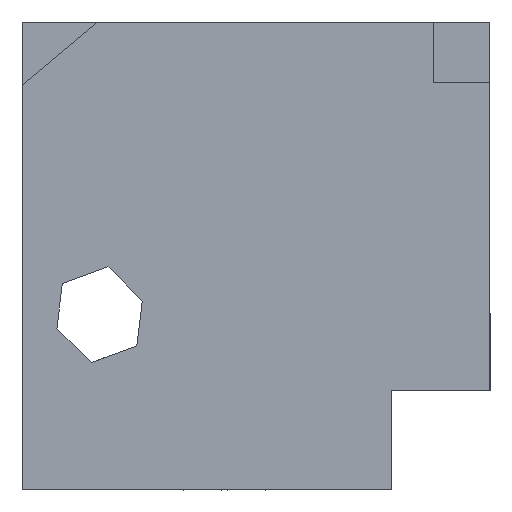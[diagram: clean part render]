
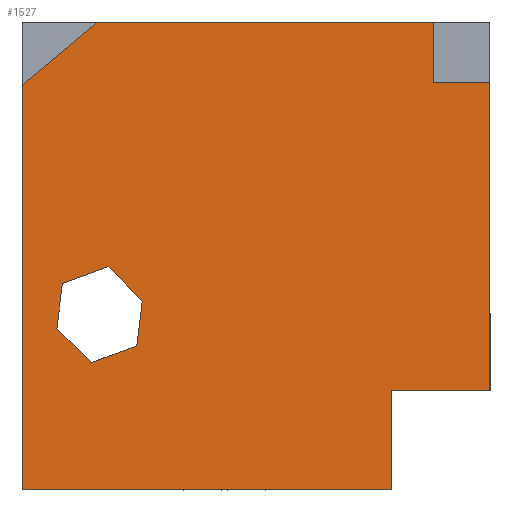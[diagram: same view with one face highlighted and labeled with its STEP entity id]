
A CAD part, left-side view. The second image highlights one B-rep face of the part: STEP entity #1527.
In plain terms, the highlighted planar face has unit normal (-1, 0, 0).
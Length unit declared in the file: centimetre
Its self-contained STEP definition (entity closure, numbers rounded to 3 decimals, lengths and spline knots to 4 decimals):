
#13 = CARTESIAN_POINT ( 'NONE',  ( 0., 1000., 1000. ) ) ;
#34 = VERTEX_POINT ( 'NONE', #563 ) ;
#38 = ORIENTED_EDGE ( 'NONE', *, *, #230, .T. ) ;
#70 = AXIS2_PLACEMENT_3D ( 'NONE', #1212, #466, #1525 ) ;
#71 = VECTOR ( 'NONE', #973, 100. ) ;
#75 = ORIENTED_EDGE ( 'NONE', *, *, #504, .F. ) ;
#85 = LINE ( 'NONE', #1158, #1379 ) ;
#95 = LINE ( 'NONE', #339, #900 ) ;
#108 = EDGE_CURVE ( 'NONE', #1005, #634, #1410, .T. ) ;
#114 = EDGE_CURVE ( 'NONE', #689, #811, #95, .T. ) ;
#116 = ORIENTED_EDGE ( 'NONE', *, *, #1057, .T. ) ;
#117 = PLANE ( 'NONE',  #70 ) ;
#144 = EDGE_CURVE ( 'NONE', #1262, #320, #222, .T. ) ;
#147 = VECTOR ( 'NONE', #1225, 100. ) ;
#156 = LINE ( 'NONE', #1339, #147 ) ;
#160 = LINE ( 'NONE', #13, #1164 ) ;
#166 = ORIENTED_EDGE ( 'NONE', *, *, #114, .T. ) ;
#193 = LINE ( 'NONE', #1506, #1504 ) ;
#209 = DIRECTION ( 'NONE',  ( 0., -0.707, -0.707 ) ) ;
#222 = LINE ( 'NONE', #708, #545 ) ;
#228 = EDGE_CURVE ( 'NONE', #34, #637, #85, .T. ) ;
#230 = EDGE_CURVE ( 'NONE', #1536, #1097, #193, .T. ) ;
#232 = CARTESIAN_POINT ( 'NONE',  ( 0., 913.8437, 441.1895 ) ) ;
#241 = DIRECTION ( 'NONE',  ( 0., -1., 0. ) ) ;
#243 = EDGE_LOOP ( 'NONE', ( #1104, #1247, #769, #516, #38, #385, #253, #75, #867 ) ) ;
#247 = VECTOR ( 'NONE', #241, 100. ) ;
#248 = VECTOR ( 'NONE', #899, 100. ) ;
#253 = ORIENTED_EDGE ( 'NONE', *, *, #108, .F. ) ;
#263 = VERTEX_POINT ( 'NONE', #446 ) ;
#303 = CARTESIAN_POINT ( 'NONE',  ( 0., 211.0073, 213.0242 ) ) ;
#311 = DIRECTION ( 'NONE',  ( 0., 0.94, -0.342 ) ) ;
#320 = VERTEX_POINT ( 'NONE', #489 ) ;
#329 = LINE ( 'NONE', #1296, #1480 ) ;
#332 = CARTESIAN_POINT ( 'NONE',  ( 0., 0., 1000. ) ) ;
#339 = CARTESIAN_POINT ( 'NONE',  ( 0., 925.3971, 345.314 ) ) ;
#346 = VERTEX_POINT ( 'NONE', #586 ) ;
#360 = ORIENTED_EDGE ( 'NONE', *, *, #1129, .T. ) ;
#381 = CARTESIAN_POINT ( 'NONE',  ( 0., 0., 871.1625 ) ) ;
#385 = ORIENTED_EDGE ( 'NONE', *, *, #1228, .T. ) ;
#416 = LINE ( 'NONE', #1314, #780 ) ;
#442 = EDGE_CURVE ( 'NONE', #263, #1262, #160, .T. ) ;
#446 = CARTESIAN_POINT ( 'NONE',  ( 0., 838.7382, 1000. ) ) ;
#466 = DIRECTION ( 'NONE',  ( 1., 0., 0. ) ) ;
#483 = EDGE_CURVE ( 'NONE', #891, #263, #156, .T. ) ;
#487 = DIRECTION ( 'NONE',  ( 0., -0.94, 0.342 ) ) ;
#489 = CARTESIAN_POINT ( 'NONE',  ( 0., 119.813, 871.1625 ) ) ;
#500 = CARTESIAN_POINT ( 'NONE',  ( 0., 743.0704, 403.5925 ) ) ;
#504 = EDGE_CURVE ( 'NONE', #320, #1005, #744, .T. ) ;
#516 = ORIENTED_EDGE ( 'NONE', *, *, #812, .T. ) ;
#542 = ORIENTED_EDGE ( 'NONE', *, *, #228, .T. ) ;
#545 = VECTOR ( 'NONE', #589, 100. ) ;
#561 = EDGE_CURVE ( 'NONE', #891, #1544, #1388, .T. ) ;
#563 = CARTESIAN_POINT ( 'NONE',  ( 0., 754.6238, 307.717 ) ) ;
#586 = CARTESIAN_POINT ( 'NONE',  ( 0., 816.2434, 476.7656 ) ) ;
#589 = DIRECTION ( 'NONE',  ( 0., 0., -1. ) ) ;
#617 = CARTESIAN_POINT ( 'NONE',  ( 0., 0., 871.1625 ) ) ;
#634 = VERTEX_POINT ( 'NONE', #1044 ) ;
#637 = VERTEX_POINT ( 'NONE', #1052 ) ;
#689 = VERTEX_POINT ( 'NONE', #1191 ) ;
#697 = CARTESIAN_POINT ( 'NONE',  ( 0., 1000., 0. ) ) ;
#699 = DIRECTION ( 'NONE',  ( 0., -0.12, 0.993 ) ) ;
#708 = CARTESIAN_POINT ( 'NONE',  ( 0., 119.813, 871.1625 ) ) ;
#744 = LINE ( 'NONE', #617, #1309 ) ;
#760 = VECTOR ( 'NONE', #209, 100. ) ;
#769 = ORIENTED_EDGE ( 'NONE', *, *, #561, .T. ) ;
#780 = VECTOR ( 'NONE', #809, 100. ) ;
#794 = CARTESIAN_POINT ( 'NONE',  ( 0., 1000., 1000. ) ) ;
#809 = DIRECTION ( 'NONE',  ( 0., 0.12, -0.993 ) ) ;
#811 = VERTEX_POINT ( 'NONE', #1244 ) ;
#812 = EDGE_CURVE ( 'NONE', #1544, #1536, #1102, .T. ) ;
#852 = CARTESIAN_POINT ( 'NONE',  ( 0., 0., 213.0242 ) ) ;
#853 = DIRECTION ( 'NONE',  ( 0., -1., 0. ) ) ;
#867 = ORIENTED_EDGE ( 'NONE', *, *, #144, .F. ) ;
#868 = CARTESIAN_POINT ( 'NONE',  ( 0., 1000., 865.366 ) ) ;
#891 = VERTEX_POINT ( 'NONE', #868 ) ;
#899 = DIRECTION ( 'NONE',  ( 0., 0., -1. ) ) ;
#900 = VECTOR ( 'NONE', #699, 100. ) ;
#921 = DIRECTION ( 'NONE',  ( 0., 0., 1. ) ) ;
#927 = VECTOR ( 'NONE', #487, 100. ) ;
#938 = LINE ( 'NONE', #1053, #760 ) ;
#972 = VERTEX_POINT ( 'NONE', #500 ) ;
#973 = DIRECTION ( 'NONE',  ( 0., -1., 0. ) ) ;
#983 = CARTESIAN_POINT ( 'NONE',  ( 0., 119.813, 1000. ) ) ;
#1005 = VERTEX_POINT ( 'NONE', #381 ) ;
#1028 = VECTOR ( 'NONE', #1526, 100. ) ;
#1044 = CARTESIAN_POINT ( 'NONE',  ( 0., 0., 213.0242 ) ) ;
#1052 = CARTESIAN_POINT ( 'NONE',  ( 0., 852.2241, 272.1409 ) ) ;
#1053 = CARTESIAN_POINT ( 'NONE',  ( 0., 816.2434, 476.7656 ) ) ;
#1057 = EDGE_CURVE ( 'NONE', #346, #972, #938, .T. ) ;
#1097 = VERTEX_POINT ( 'NONE', #303 ) ;
#1102 = LINE ( 'NONE', #1462, #71 ) ;
#1104 = ORIENTED_EDGE ( 'NONE', *, *, #442, .F. ) ;
#1129 = EDGE_CURVE ( 'NONE', #637, #689, #329, .T. ) ;
#1136 = ORIENTED_EDGE ( 'NONE', *, *, #1208, .T. ) ;
#1158 = CARTESIAN_POINT ( 'NONE',  ( 0., 754.6238, 307.717 ) ) ;
#1164 = VECTOR ( 'NONE', #853, 100. ) ;
#1191 = CARTESIAN_POINT ( 'NONE',  ( 0., 925.3971, 345.314 ) ) ;
#1208 = EDGE_CURVE ( 'NONE', #811, #346, #1422, .T. ) ;
#1209 = LINE ( 'NONE', #852, #247 ) ;
#1212 = CARTESIAN_POINT ( 'NONE',  ( 0., 1000., 1000. ) ) ;
#1213 = EDGE_LOOP ( 'NONE', ( #1255, #542, #360, #166, #1136, #116 ) ) ;
#1225 = DIRECTION ( 'NONE',  ( 0., -0.768, 0.641 ) ) ;
#1228 = EDGE_CURVE ( 'NONE', #1097, #634, #1209, .T. ) ;
#1244 = CARTESIAN_POINT ( 'NONE',  ( 0., 913.8437, 441.1895 ) ) ;
#1247 = ORIENTED_EDGE ( 'NONE', *, *, #483, .F. ) ;
#1255 = ORIENTED_EDGE ( 'NONE', *, *, #1516, .T. ) ;
#1262 = VERTEX_POINT ( 'NONE', #983 ) ;
#1296 = CARTESIAN_POINT ( 'NONE',  ( 0., 852.2241, 272.1409 ) ) ;
#1309 = VECTOR ( 'NONE', #1458, 100. ) ;
#1314 = CARTESIAN_POINT ( 'NONE',  ( 0., 743.0704, 403.5925 ) ) ;
#1339 = CARTESIAN_POINT ( 'NONE',  ( 0., 838.7382, 1000. ) ) ;
#1379 = VECTOR ( 'NONE', #311, 100. ) ;
#1388 = LINE ( 'NONE', #794, #248 ) ;
#1396 = DIRECTION ( 'NONE',  ( 0., 0.707, 0.707 ) ) ;
#1399 = FACE_BOUND ( 'NONE', #1213, .T. ) ;
#1410 = LINE ( 'NONE', #332, #1028 ) ;
#1422 = LINE ( 'NONE', #232, #927 ) ;
#1458 = DIRECTION ( 'NONE',  ( 0., -1., 0. ) ) ;
#1462 = CARTESIAN_POINT ( 'NONE',  ( 0., 1000., 0. ) ) ;
#1480 = VECTOR ( 'NONE', #1396, 100. ) ;
#1504 = VECTOR ( 'NONE', #921, 100. ) ;
#1506 = CARTESIAN_POINT ( 'NONE',  ( 0., 211.0073, 0. ) ) ;
#1516 = EDGE_CURVE ( 'NONE', #972, #34, #416, .T. ) ;
#1525 = DIRECTION ( 'NONE',  ( 0., 0., -1. ) ) ;
#1526 = DIRECTION ( 'NONE',  ( 0., 0., -1. ) ) ;
#1527 = ADVANCED_FACE ( 'NONE', ( #1399, #1550 ), #117, .F. ) ;
#1534 = CARTESIAN_POINT ( 'NONE',  ( 0., 211.0073, 0. ) ) ;
#1536 = VERTEX_POINT ( 'NONE', #1534 ) ;
#1544 = VERTEX_POINT ( 'NONE', #697 ) ;
#1550 = FACE_OUTER_BOUND ( 'NONE', #243, .T. ) ;
